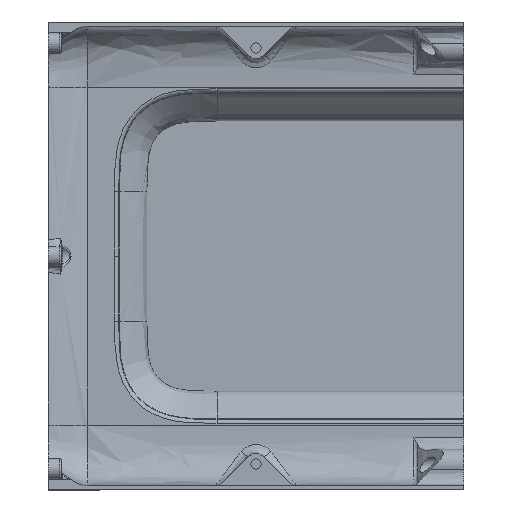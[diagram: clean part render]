
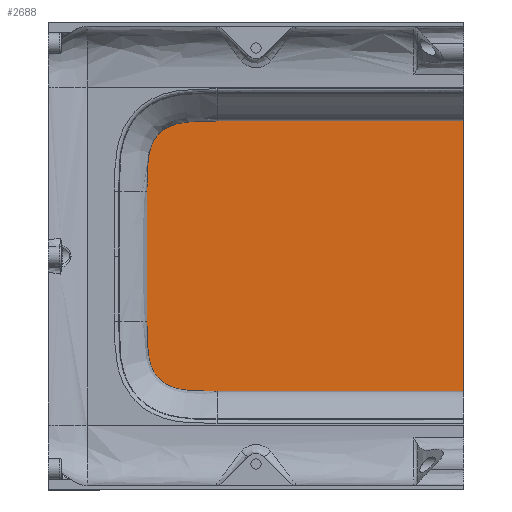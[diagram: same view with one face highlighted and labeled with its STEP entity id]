
A CAD part, top view. The second image highlights one B-rep face of the part: STEP entity #2688.
In plain terms, the highlighted planar face has unit normal (0, 0, 1).
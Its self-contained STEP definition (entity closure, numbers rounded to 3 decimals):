
#72=PLANE('',#2849);
#247=LINE('',#7526,#345);
#280=LINE('',#10852,#378);
#284=LINE('',#10936,#382);
#285=LINE('',#10938,#383);
#345=VECTOR('',#3088,10.);
#378=VECTOR('',#3219,10.);
#382=VECTOR('',#3225,10.);
#383=VECTOR('',#3228,10.);
#527=FACE_OUTER_BOUND('',#683,.T.);
#683=EDGE_LOOP('',(#2345,#2346,#2347,#2348,#2349,#2350));
#831=B_SPLINE_CURVE_WITH_KNOTS('',3,(#7586,#7587,#7588,#7589,#7590,#7591,
#7592,#7593,#7594,#7595,#7596,#7597,#7598,#7599,#7600,#7601,#7602,#7603,
#7604,#7605,#7606,#7607),.UNSPECIFIED.,.F.,.F.,(4,3,3,3,3,3,3,4),(-3.368,
-3.194,-3.02,-2.776,-2.416,
-1.645,-0.822,0.),.UNSPECIFIED.);
#934=B_SPLINE_CURVE_WITH_KNOTS('',3,(#10912,#10913,#10914,#10915,#10916,
#10917,#10918,#10919,#10920,#10921,#10922,#10923,#10924,#10925,#10926,#10927,
#10928,#10929,#10930,#10931,#10932,#10933),.UNSPECIFIED.,.F.,.F.,(4,3,3,
3,3,3,3,4),(-3.368,-3.194,-3.02,-2.776,
-2.416,-1.645,-0.822,0.),
 .UNSPECIFIED.);
#1108=VERTEX_POINT('',#7524);
#1109=VERTEX_POINT('',#7525);
#1110=VERTEX_POINT('',#7585);
#1211=VERTEX_POINT('',#10850);
#1212=VERTEX_POINT('',#10851);
#1213=VERTEX_POINT('',#10911);
#1450=EDGE_CURVE('',#1108,#1109,#247,.T.);
#1453=EDGE_CURVE('',#1110,#1108,#831,.T.);
#1616=EDGE_CURVE('',#1211,#1212,#280,.T.);
#1619=EDGE_CURVE('',#1213,#1211,#934,.T.);
#1621=EDGE_CURVE('',#1213,#1110,#284,.T.);
#1622=EDGE_CURVE('',#1109,#1212,#285,.T.);
#2345=ORIENTED_EDGE('',*,*,#1622,.F.);
#2346=ORIENTED_EDGE('',*,*,#1450,.F.);
#2347=ORIENTED_EDGE('',*,*,#1453,.F.);
#2348=ORIENTED_EDGE('',*,*,#1621,.F.);
#2349=ORIENTED_EDGE('',*,*,#1619,.T.);
#2350=ORIENTED_EDGE('',*,*,#1616,.T.);
#2688=ADVANCED_FACE('',(#527),#72,.T.);
#2849=AXIS2_PLACEMENT_3D('',#10937,#3226,#3227);
#3088=DIRECTION('',(1.,0.,0.));
#3219=DIRECTION('',(1.,0.,0.));
#3225=DIRECTION('',(0.,1.,0.));
#3226=DIRECTION('center_axis',(0.,0.,
1.));
#3227=DIRECTION('ref_axis',(-1.,0.,0.));
#3228=DIRECTION('',(0.,-1.,0.));
#7524=CARTESIAN_POINT('',(-95.,52.,116.6));
#7525=CARTESIAN_POINT('',(0.,52.,116.6));
#7526=CARTESIAN_POINT('',(-30.502,52.,116.6));
#7585=CARTESIAN_POINT('',(-122.,25.,116.6));
#7586=CARTESIAN_POINT('Ctrl Pts',(-122.,25.,116.6));
#7587=CARTESIAN_POINT('Ctrl Pts',(-122.,28.202,116.6));
#7588=CARTESIAN_POINT('Ctrl Pts',(-121.989,31.039,116.6));
#7589=CARTESIAN_POINT('Ctrl Pts',(-121.855,33.5,116.6));
#7590=CARTESIAN_POINT('Ctrl Pts',(-121.721,35.961,116.6));
#7591=CARTESIAN_POINT('Ctrl Pts',(-121.463,38.045,116.6));
#7592=CARTESIAN_POINT('Ctrl Pts',(-121.04,39.86,116.6));
#7593=CARTESIAN_POINT('Ctrl Pts',(-120.448,42.4,116.6));
#7594=CARTESIAN_POINT('Ctrl Pts',(-119.726,43.902,116.6));
#7595=CARTESIAN_POINT('Ctrl Pts',(-118.901,45.185,116.6));
#7596=CARTESIAN_POINT('Ctrl Pts',(-117.683,47.08,116.6));
#7597=CARTESIAN_POINT('Ctrl Pts',(-116.451,48.039,116.6));
#7598=CARTESIAN_POINT('Ctrl Pts',(-115.573,48.648,116.6));
#7599=CARTESIAN_POINT('Ctrl Pts',(-113.694,49.953,116.6));
#7600=CARTESIAN_POINT('Ctrl Pts',(-111.472,50.681,116.6));
#7601=CARTESIAN_POINT('Ctrl Pts',(-109.789,51.063,116.6));
#7602=CARTESIAN_POINT('Ctrl Pts',(-107.995,51.471,116.6));
#7603=CARTESIAN_POINT('Ctrl Pts',(-105.905,51.727,116.6));
#7604=CARTESIAN_POINT('Ctrl Pts',(-103.449,51.859,116.6));
#7605=CARTESIAN_POINT('Ctrl Pts',(-100.992,51.992,116.6));
#7606=CARTESIAN_POINT('Ctrl Pts',(-98.168,52.,116.6));
#7607=CARTESIAN_POINT('Ctrl Pts',(-95.,52.,116.6));
#10850=CARTESIAN_POINT('',(-95.,-52.,116.6));
#10851=CARTESIAN_POINT('',(0.,-52.,116.6));
#10852=CARTESIAN_POINT('',(-30.502,-52.,116.6));
#10911=CARTESIAN_POINT('',(-122.,-25.,116.6));
#10912=CARTESIAN_POINT('Ctrl Pts',(-122.,-25.,
116.6));
#10913=CARTESIAN_POINT('Ctrl Pts',(-122.,-28.202,
116.6));
#10914=CARTESIAN_POINT('Ctrl Pts',(-121.989,-31.039,
116.6));
#10915=CARTESIAN_POINT('Ctrl Pts',(-121.855,-33.5,
116.6));
#10916=CARTESIAN_POINT('Ctrl Pts',(-121.721,-35.961,
116.6));
#10917=CARTESIAN_POINT('Ctrl Pts',(-121.463,-38.045,
116.6));
#10918=CARTESIAN_POINT('Ctrl Pts',(-121.04,-39.86,
116.6));
#10919=CARTESIAN_POINT('Ctrl Pts',(-120.448,-42.4,116.6));
#10920=CARTESIAN_POINT('Ctrl Pts',(-119.726,-43.902,
116.6));
#10921=CARTESIAN_POINT('Ctrl Pts',(-118.901,-45.185,
116.6));
#10922=CARTESIAN_POINT('Ctrl Pts',(-117.683,-47.08,
116.6));
#10923=CARTESIAN_POINT('Ctrl Pts',(-116.451,-48.039,
116.6));
#10924=CARTESIAN_POINT('Ctrl Pts',(-115.573,-48.648,
116.6));
#10925=CARTESIAN_POINT('Ctrl Pts',(-113.694,-49.953,
116.6));
#10926=CARTESIAN_POINT('Ctrl Pts',(-111.472,-50.681,
116.6));
#10927=CARTESIAN_POINT('Ctrl Pts',(-109.789,-51.063,116.6));
#10928=CARTESIAN_POINT('Ctrl Pts',(-107.995,-51.471,
116.6));
#10929=CARTESIAN_POINT('Ctrl Pts',(-105.905,-51.727,
116.6));
#10930=CARTESIAN_POINT('Ctrl Pts',(-103.449,-51.859,
116.6));
#10931=CARTESIAN_POINT('Ctrl Pts',(-100.992,-51.992,
116.6));
#10932=CARTESIAN_POINT('Ctrl Pts',(-98.168,-52.,
116.6));
#10933=CARTESIAN_POINT('Ctrl Pts',(-95.,-52.,
116.6));
#10936=CARTESIAN_POINT('',(-122.,12.5,116.6));
#10937=CARTESIAN_POINT('Origin',(-61.003,-0.001,
116.6));
#10938=CARTESIAN_POINT('',(0.,-52.,116.6));
